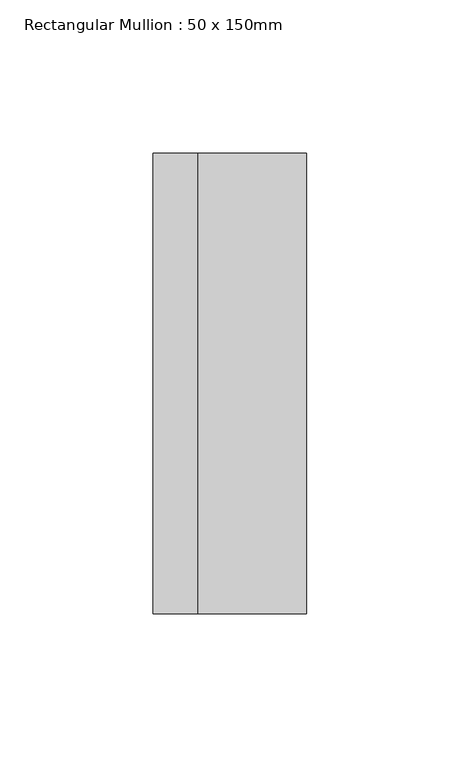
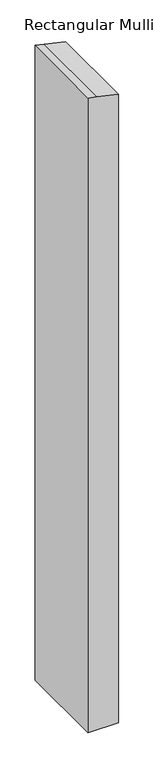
"""IFC4 building model written with IfcOpenShell, lengths in millimetres: member geometry, Rectangular Mullion : 50 x 150mm."""

from ifc_helpers import new_model, si_unit, frame, origin, place, context, project, spatial, polyline, outline, extrude, source, transform, mapped, element, save


def rectangular_mullion_50_x_150mm_b0743fa1(model_context):
    return source(origin(), model_context, "Body", "SweptSolid", [
        extrude(outline(polyline([(-56.4764416, 25.0), (-48.8945724, -10.4556584), (-45.7843976, -25.0), (-1141.9861308, -25.0), (-1141.9861308, 25.0), (-56.4764416, 25.0)])), frame((0.0, -75.0, 0.0), z_axis=(0.0, 1.0, 0.0), x_axis=(0.0, 0.0, 1.0)), (0.0, 0.0, 1.0), 150.0),
    ])


if __name__ == "__main__":
    model = new_model("IFC4")
    model_context = context("Model", 3, world=origin())
    ifc_project = project(units=[si_unit("LENGTHUNIT", "METRE", prefix="MILLI")], contexts=[model_context])
    site = spatial("IfcSite", under=ifc_project)
    building = spatial("IfcBuilding", under=site)
    placement = place(None, origin())
    rectangular_mullion_50_x_150mm_shape = rectangular_mullion_50_x_150mm_b0743fa1(model_context)
    element("IfcMember", 1, ObjectType="Rectangular Mullion : 50 x 150mm", at=placement, inside=building, context=model_context, shape_type="MappedRepresentation", body=[
        mapped(rectangular_mullion_50_x_150mm_shape, transform((0.0, 0.0, 0.0), x_axis=(1.0, 0.0, 0.0), y_axis=(0.0, 1.0, 0.0), z_axis=(0.0, 0.0, 1.0))),
    ])
    save(model, "model.ifc")
